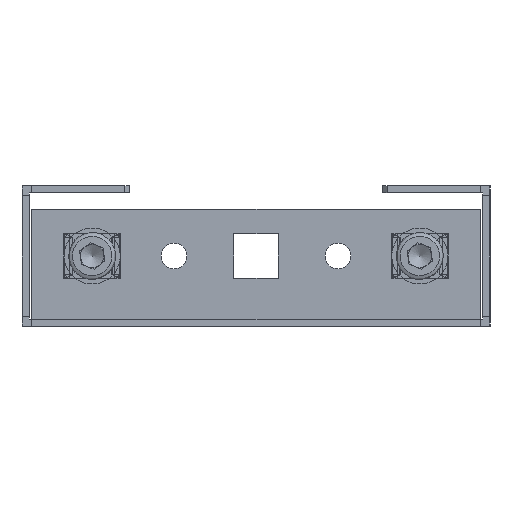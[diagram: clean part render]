
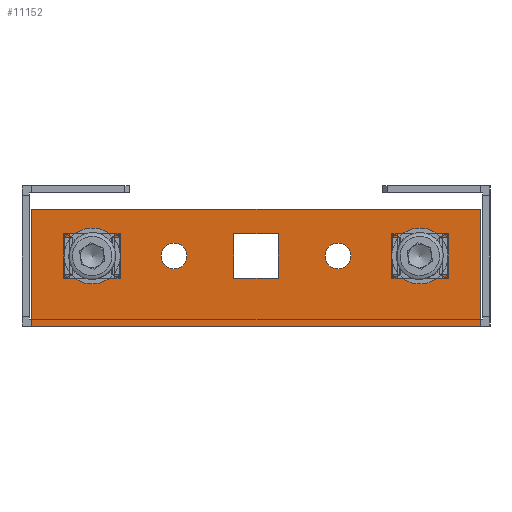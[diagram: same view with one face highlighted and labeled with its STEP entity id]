
A CAD part, left-side view. The second image highlights one B-rep face of the part: STEP entity #11152.
In plain terms, the highlighted planar face has unit normal (-1, 0, 0).
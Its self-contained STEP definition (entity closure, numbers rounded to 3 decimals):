
#5991 = VERTEX_POINT('',#5992);
#5992 = CARTESIAN_POINT('',(-707.,-47.9,0.));
#5998 = EDGE_CURVE('',#5999,#5991,#6001,.T.);
#5999 = VERTEX_POINT('',#6000);
#6000 = CARTESIAN_POINT('',(-707.,47.9,0.));
#6001 = LINE('',#6002,#6003);
#6002 = CARTESIAN_POINT('',(-707.,0.,0.));
#6003 = VECTOR('',#6004,1.);
#6004 = DIRECTION('',(-0.,-1.,0.));
#11031 = VERTEX_POINT('',#11032);
#11032 = CARTESIAN_POINT('',(-707.,47.9,2.1));
#11047 = EDGE_CURVE('',#11031,#5999,#11048,.T.);
#11048 = LINE('',#11049,#11050);
#11049 = CARTESIAN_POINT('',(-707.,47.9,2.1));
#11050 = VECTOR('',#11051,1.);
#11051 = DIRECTION('',(0.,0.,-1.));
#11071 = VERTEX_POINT('',#11072);
#11072 = CARTESIAN_POINT('',(-707.,-47.9,2.1));
#11078 = EDGE_CURVE('',#11071,#5991,#11079,.T.);
#11079 = LINE('',#11080,#11081);
#11080 = CARTESIAN_POINT('',(-707.,-47.9,0.));
#11081 = VECTOR('',#11082,1.);
#11082 = DIRECTION('',(0.,-0.,-1.));
#11095 = EDGE_CURVE('',#11096,#11031,#11098,.T.);
#11096 = VERTEX_POINT('',#11097);
#11097 = CARTESIAN_POINT('',(-707.,47.9,25.));
#11098 = LINE('',#11099,#11100);
#11099 = CARTESIAN_POINT('',(-707.,47.9,0.));
#11100 = VECTOR('',#11101,1.);
#11101 = DIRECTION('',(0.,0.,-1.));
#11135 = VERTEX_POINT('',#11136);
#11136 = CARTESIAN_POINT('',(-707.,-47.9,25.));
#11142 = EDGE_CURVE('',#11071,#11135,#11143,.T.);
#11143 = LINE('',#11144,#11145);
#11144 = CARTESIAN_POINT('',(-707.,-47.9,0.));
#11145 = VECTOR('',#11146,1.);
#11146 = DIRECTION('',(0.,0.,1.));
#11152 = ADVANCED_FACE('',(#11153,#11164,#11175,#11209,#11243,#11256),
  #11290,.F.);
#11153 = FACE_BOUND('',#11154,.T.);
#11154 = EDGE_LOOP('',(#11155));
#11155 = ORIENTED_EDGE('',*,*,#11156,.F.);
#11156 = EDGE_CURVE('',#11157,#11157,#11159,.T.);
#11157 = VERTEX_POINT('',#11158);
#11158 = CARTESIAN_POINT('',(-707.,-17.5,17.75));
#11159 = CIRCLE('',#11160,2.75);
#11160 = AXIS2_PLACEMENT_3D('',#11161,#11162,#11163);
#11161 = CARTESIAN_POINT('',(-707.,-17.5,15.));
#11162 = DIRECTION('',(-1.,0.,0.));
#11163 = DIRECTION('',(0.,0.,1.));
#11164 = FACE_BOUND('',#11165,.T.);
#11165 = EDGE_LOOP('',(#11166));
#11166 = ORIENTED_EDGE('',*,*,#11167,.F.);
#11167 = EDGE_CURVE('',#11168,#11168,#11170,.T.);
#11168 = VERTEX_POINT('',#11169);
#11169 = CARTESIAN_POINT('',(-707.,17.5,17.75));
#11170 = CIRCLE('',#11171,2.75);
#11171 = AXIS2_PLACEMENT_3D('',#11172,#11173,#11174);
#11172 = CARTESIAN_POINT('',(-707.,17.5,15.));
#11173 = DIRECTION('',(-1.,0.,0.));
#11174 = DIRECTION('',(0.,0.,1.));
#11175 = FACE_BOUND('',#11176,.T.);
#11176 = EDGE_LOOP('',(#11177,#11187,#11195,#11203));
#11177 = ORIENTED_EDGE('',*,*,#11178,.F.);
#11178 = EDGE_CURVE('',#11179,#11181,#11183,.T.);
#11179 = VERTEX_POINT('',#11180);
#11180 = CARTESIAN_POINT('',(-707.,4.75,19.75));
#11181 = VERTEX_POINT('',#11182);
#11182 = CARTESIAN_POINT('',(-707.,4.75,10.25));
#11183 = LINE('',#11184,#11185);
#11184 = CARTESIAN_POINT('',(-707.,4.75,10.25));
#11185 = VECTOR('',#11186,1.);
#11186 = DIRECTION('',(0.,-0.,-1.));
#11187 = ORIENTED_EDGE('',*,*,#11188,.F.);
#11188 = EDGE_CURVE('',#11189,#11179,#11191,.T.);
#11189 = VERTEX_POINT('',#11190);
#11190 = CARTESIAN_POINT('',(-707.,-4.75,19.75));
#11191 = LINE('',#11192,#11193);
#11192 = CARTESIAN_POINT('',(-707.,4.75,19.75));
#11193 = VECTOR('',#11194,1.);
#11194 = DIRECTION('',(-0.,1.,-0.));
#11195 = ORIENTED_EDGE('',*,*,#11196,.F.);
#11196 = EDGE_CURVE('',#11197,#11189,#11199,.T.);
#11197 = VERTEX_POINT('',#11198);
#11198 = CARTESIAN_POINT('',(-707.,-4.75,10.25));
#11199 = LINE('',#11200,#11201);
#11200 = CARTESIAN_POINT('',(-707.,-4.75,10.25));
#11201 = VECTOR('',#11202,1.);
#11202 = DIRECTION('',(0.,0.,1.));
#11203 = ORIENTED_EDGE('',*,*,#11204,.F.);
#11204 = EDGE_CURVE('',#11181,#11197,#11205,.T.);
#11205 = LINE('',#11206,#11207);
#11206 = CARTESIAN_POINT('',(-707.,4.75,10.25));
#11207 = VECTOR('',#11208,1.);
#11208 = DIRECTION('',(0.,-1.,0.));
#11209 = FACE_BOUND('',#11210,.T.);
#11210 = EDGE_LOOP('',(#11211,#11221,#11229,#11237));
#11211 = ORIENTED_EDGE('',*,*,#11212,.F.);
#11212 = EDGE_CURVE('',#11213,#11215,#11217,.T.);
#11213 = VERTEX_POINT('',#11214);
#11214 = CARTESIAN_POINT('',(-707.,39.75,19.75));
#11215 = VERTEX_POINT('',#11216);
#11216 = CARTESIAN_POINT('',(-707.,39.75,10.25));
#11217 = LINE('',#11218,#11219);
#11218 = CARTESIAN_POINT('',(-707.,39.75,10.25));
#11219 = VECTOR('',#11220,1.);
#11220 = DIRECTION('',(0.,-0.,-1.));
#11221 = ORIENTED_EDGE('',*,*,#11222,.F.);
#11222 = EDGE_CURVE('',#11223,#11213,#11225,.T.);
#11223 = VERTEX_POINT('',#11224);
#11224 = CARTESIAN_POINT('',(-707.,30.25,19.75));
#11225 = LINE('',#11226,#11227);
#11226 = CARTESIAN_POINT('',(-707.,39.75,19.75));
#11227 = VECTOR('',#11228,1.);
#11228 = DIRECTION('',(-0.,1.,-0.));
#11229 = ORIENTED_EDGE('',*,*,#11230,.F.);
#11230 = EDGE_CURVE('',#11231,#11223,#11233,.T.);
#11231 = VERTEX_POINT('',#11232);
#11232 = CARTESIAN_POINT('',(-707.,30.25,10.25));
#11233 = LINE('',#11234,#11235);
#11234 = CARTESIAN_POINT('',(-707.,30.25,10.25));
#11235 = VECTOR('',#11236,1.);
#11236 = DIRECTION('',(0.,0.,1.));
#11237 = ORIENTED_EDGE('',*,*,#11238,.F.);
#11238 = EDGE_CURVE('',#11215,#11231,#11239,.T.);
#11239 = LINE('',#11240,#11241);
#11240 = CARTESIAN_POINT('',(-707.,39.75,10.25));
#11241 = VECTOR('',#11242,1.);
#11242 = DIRECTION('',(0.,-1.,0.));
#11243 = FACE_BOUND('',#11244,.T.);
#11244 = EDGE_LOOP('',(#11245,#11246,#11247,#11248,#11249,#11250));
#11245 = ORIENTED_EDGE('',*,*,#11095,.T.);
#11246 = ORIENTED_EDGE('',*,*,#11047,.T.);
#11247 = ORIENTED_EDGE('',*,*,#5998,.T.);
#11248 = ORIENTED_EDGE('',*,*,#11078,.F.);
#11249 = ORIENTED_EDGE('',*,*,#11142,.T.);
#11250 = ORIENTED_EDGE('',*,*,#11251,.T.);
#11251 = EDGE_CURVE('',#11135,#11096,#11252,.T.);
#11252 = LINE('',#11253,#11254);
#11253 = CARTESIAN_POINT('',(-707.,0.,25.));
#11254 = VECTOR('',#11255,1.);
#11255 = DIRECTION('',(-0.,1.,0.));
#11256 = FACE_BOUND('',#11257,.T.);
#11257 = EDGE_LOOP('',(#11258,#11268,#11276,#11284));
#11258 = ORIENTED_EDGE('',*,*,#11259,.F.);
#11259 = EDGE_CURVE('',#11260,#11262,#11264,.T.);
#11260 = VERTEX_POINT('',#11261);
#11261 = CARTESIAN_POINT('',(-707.,-39.75,19.75));
#11262 = VERTEX_POINT('',#11263);
#11263 = CARTESIAN_POINT('',(-707.,-30.25,19.75));
#11264 = LINE('',#11265,#11266);
#11265 = CARTESIAN_POINT('',(-707.,-30.25,19.75));
#11266 = VECTOR('',#11267,1.);
#11267 = DIRECTION('',(-0.,1.,-0.));
#11268 = ORIENTED_EDGE('',*,*,#11269,.F.);
#11269 = EDGE_CURVE('',#11270,#11260,#11272,.T.);
#11270 = VERTEX_POINT('',#11271);
#11271 = CARTESIAN_POINT('',(-707.,-39.75,10.25));
#11272 = LINE('',#11273,#11274);
#11273 = CARTESIAN_POINT('',(-707.,-39.75,10.25));
#11274 = VECTOR('',#11275,1.);
#11275 = DIRECTION('',(0.,0.,1.));
#11276 = ORIENTED_EDGE('',*,*,#11277,.F.);
#11277 = EDGE_CURVE('',#11278,#11270,#11280,.T.);
#11278 = VERTEX_POINT('',#11279);
#11279 = CARTESIAN_POINT('',(-707.,-30.25,10.25));
#11280 = LINE('',#11281,#11282);
#11281 = CARTESIAN_POINT('',(-707.,-30.25,10.25));
#11282 = VECTOR('',#11283,1.);
#11283 = DIRECTION('',(0.,-1.,0.));
#11284 = ORIENTED_EDGE('',*,*,#11285,.F.);
#11285 = EDGE_CURVE('',#11262,#11278,#11286,.T.);
#11286 = LINE('',#11287,#11288);
#11287 = CARTESIAN_POINT('',(-707.,-30.25,10.25));
#11288 = VECTOR('',#11289,1.);
#11289 = DIRECTION('',(0.,-0.,-1.));
#11290 = PLANE('',#11291);
#11291 = AXIS2_PLACEMENT_3D('',#11292,#11293,#11294);
#11292 = CARTESIAN_POINT('',(-707.,0.,0.));
#11293 = DIRECTION('',(1.,0.,0.));
#11294 = DIRECTION('',(0.,0.,-1.));
